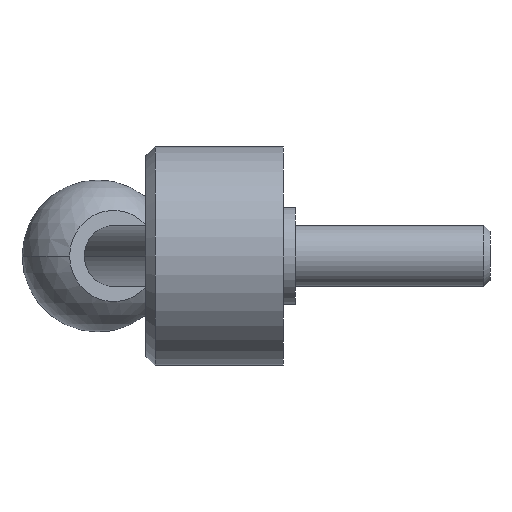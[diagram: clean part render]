
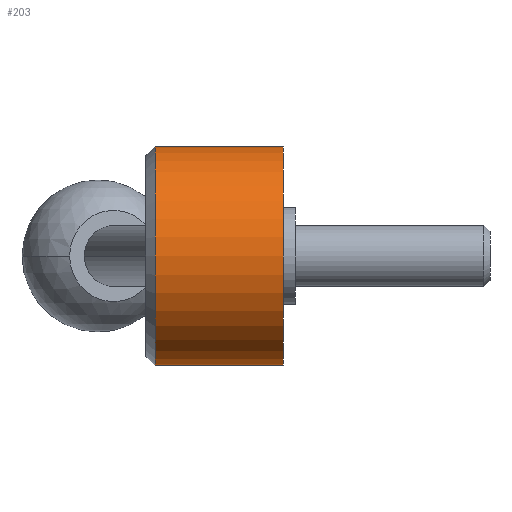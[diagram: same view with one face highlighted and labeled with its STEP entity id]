
A CAD part, left-side view. The second image highlights one B-rep face of the part: STEP entity #203.
In plain terms, the highlighted cylindrical face has radius 18 mm (diameter 36 mm), a partial arc.
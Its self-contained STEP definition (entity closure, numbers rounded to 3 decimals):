
#29 = AXIS2_PLACEMENT_3D ( 'NONE', #482, #149, #91 ) ;
#44 = CIRCLE ( 'NONE', #126, 18. ) ;
#52 = VERTEX_POINT ( 'NONE', #735 ) ;
#58 = DIRECTION ( 'NONE',  ( 0., -1., 0. ) ) ;
#87 = FACE_OUTER_BOUND ( 'NONE', #391, .T. ) ;
#91 = DIRECTION ( 'NONE',  ( 0., 0., -1. ) ) ;
#93 = EDGE_CURVE ( 'NONE', #691, #297, #591, .T. ) ;
#108 = EDGE_CURVE ( 'NONE', #52, #691, #299, .T. ) ;
#126 = AXIS2_PLACEMENT_3D ( 'NONE', #202, #605, #276 ) ;
#149 = DIRECTION ( 'NONE',  ( 0., -1., 0. ) ) ;
#161 = EDGE_CURVE ( 'NONE', #683, #297, #44, .T. ) ;
#170 = AXIS2_PLACEMENT_3D ( 'NONE', #347, #269, #521 ) ;
#172 = CARTESIAN_POINT ( 'NONE',  ( 0., 0., 18. ) ) ;
#202 = CARTESIAN_POINT ( 'NONE',  ( 0., 0., 0. ) ) ;
#203 = ADVANCED_FACE ( 'NONE', ( #87 ), #826, .T. ) ;
#269 = DIRECTION ( 'NONE',  ( 0., -1., 0. ) ) ;
#276 = DIRECTION ( 'NONE',  ( 0., 0., -1. ) ) ;
#291 = ORIENTED_EDGE ( 'NONE', *, *, #108, .T. ) ;
#297 = VERTEX_POINT ( 'NONE', #381 ) ;
#299 = CIRCLE ( 'NONE', #170, 18. ) ;
#344 = CARTESIAN_POINT ( 'NONE',  ( 0., 0., -18. ) ) ;
#347 = CARTESIAN_POINT ( 'NONE',  ( 0., 21.1, 0. ) ) ;
#381 = CARTESIAN_POINT ( 'NONE',  ( 0., 0., -18. ) ) ;
#391 = EDGE_LOOP ( 'NONE', ( #839, #291, #491, #565 ) ) ;
#405 = DIRECTION ( 'NONE',  ( 0., -1., 0. ) ) ;
#482 = CARTESIAN_POINT ( 'NONE',  ( 0., 0., 0. ) ) ;
#484 = CARTESIAN_POINT ( 'NONE',  ( 0., 0., 18. ) ) ;
#491 = ORIENTED_EDGE ( 'NONE', *, *, #93, .T. ) ;
#512 = VECTOR ( 'NONE', #405, 1000. ) ;
#521 = DIRECTION ( 'NONE',  ( 0., 0., 1. ) ) ;
#565 = ORIENTED_EDGE ( 'NONE', *, *, #161, .F. ) ;
#591 = LINE ( 'NONE', #344, #512 ) ;
#605 = DIRECTION ( 'NONE',  ( 0., -1., 0. ) ) ;
#641 = LINE ( 'NONE', #172, #682 ) ;
#682 = VECTOR ( 'NONE', #58, 1000. ) ;
#683 = VERTEX_POINT ( 'NONE', #484 ) ;
#691 = VERTEX_POINT ( 'NONE', #828 ) ;
#735 = CARTESIAN_POINT ( 'NONE',  ( 0., 21.1, 18. ) ) ;
#781 = EDGE_CURVE ( 'NONE', #52, #683, #641, .T. ) ;
#826 = CYLINDRICAL_SURFACE ( 'NONE', #29, 18. ) ;
#828 = CARTESIAN_POINT ( 'NONE',  ( 0., 21.1, -18. ) ) ;
#839 = ORIENTED_EDGE ( 'NONE', *, *, #781, .F. ) ;
